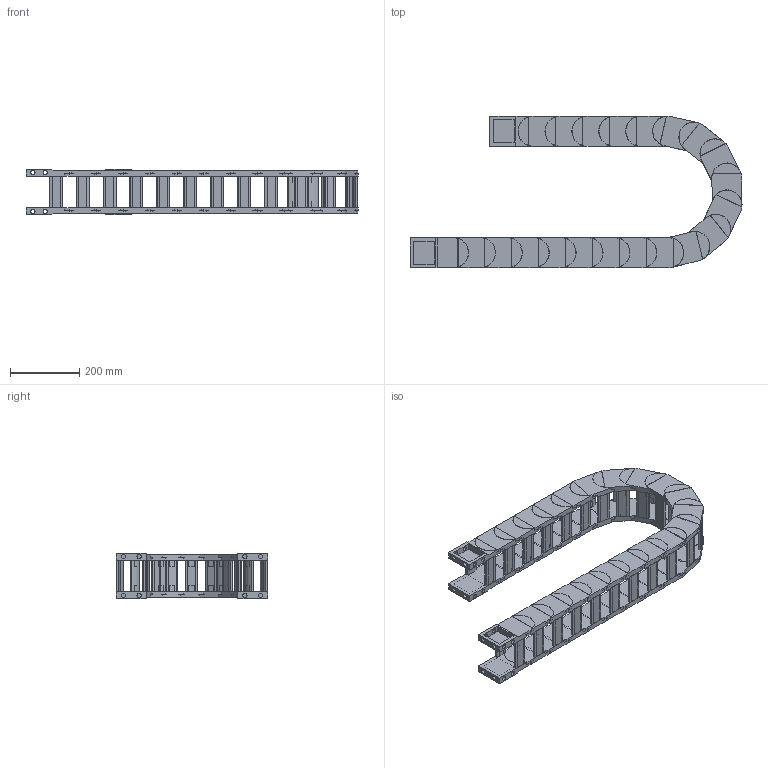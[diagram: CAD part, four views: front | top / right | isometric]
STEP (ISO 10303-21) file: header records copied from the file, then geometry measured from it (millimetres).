
FILE_DESCRIPTION((''),'2;1');
FILE_NAME('HD65-R175-ZPT_ASM','2022-06-18T17:04:50',('admin'),(''),'CREO PARAMETRIC BY PTC INC, 2021164','CREO PARAMETRIC BY PTC INC, 2021164','');
FILE_SCHEMA(('CONFIG_CONTROL_DESIGN','GEOMETRIC_VALIDATION_PROPERTIES_MIM'));
Length unit declared in the file: millimetre
Products named in the file (6): HD65; 65-50HDQSYP; HD65_ASM; H65-T1; H65-T2; HD65-R175-ZPT_ASM
Assembly tree (26 placements, depth 3):
  HD65-R175-ZPT_ASM
    HD65_ASM  x20
      HD65
      65-50HDQSYP
    H65-T1
    H65-T2
    65-50HDQSYP  x2
Bounding box: 956.21 x 435.98 x 130.2 mm (x, y, z)
Volume: 6095550.1 mm3; surface area: 1832913.2 mm2
Topology: 88 solids, 88 shells, 1628 faces, 4288 edges, 2928 vertices
Faces by surface type: plane 1248, cylinder 380
Entity records: 8896 total; most frequent: CARTESIAN_POINT 1328, DIRECTION 1296, ORIENTED_EDGE 1212, EDGE_CURVE 606, AXIS2_PLACEMENT_3D 436, VECTOR 424, LINE 424, VERTEX_POINT 410
